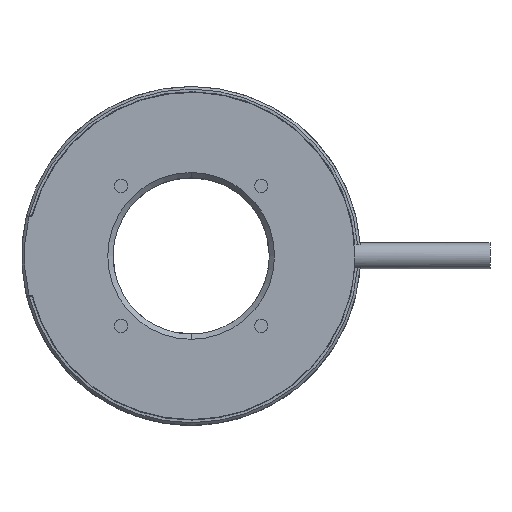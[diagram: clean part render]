
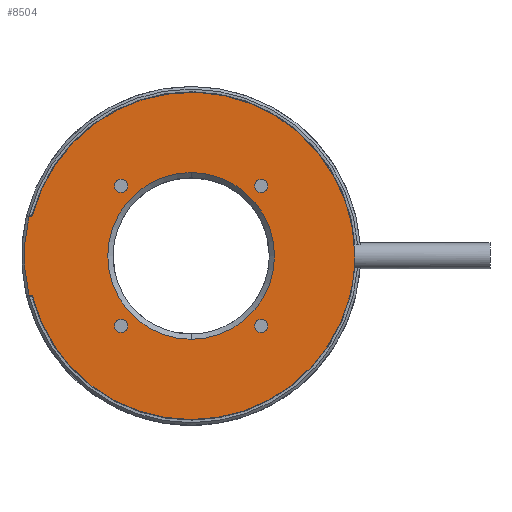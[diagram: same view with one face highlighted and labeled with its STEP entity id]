
A CAD part, top view. The second image highlights one B-rep face of the part: STEP entity #8504.
In plain terms, the highlighted planar face has unit normal (0, 0, 1).
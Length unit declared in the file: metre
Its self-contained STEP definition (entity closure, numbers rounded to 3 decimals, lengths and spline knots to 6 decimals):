
#1629=CARTESIAN_POINT('',(0.,0.,0.002));
#1630=DIRECTION('',(0.,0.,-1.));
#1631=DIRECTION('',(0.,-1.,0.));
#1632=AXIS2_PLACEMENT_3D('',#1629,#1630,#1631);
#1634=CARTESIAN_POINT('',(0.,0.,0.002));
#1635=DIRECTION('',(0.,0.,-1.));
#1636=DIRECTION('',(0.,1.,0.));
#1637=AXIS2_PLACEMENT_3D('',#1634,#1635,#1636);
#1639=CARTESIAN_POINT('',(0.013435,0.013435,0.002));
#1640=DIRECTION('',(0.,0.,-1.));
#1641=DIRECTION('',(0.,1.,0.));
#1642=AXIS2_PLACEMENT_3D('',#1639,#1640,#1641);
#1644=CARTESIAN_POINT('',(0.013435,0.013435,0.002));
#1645=DIRECTION('',(0.,0.,-1.));
#1646=DIRECTION('',(0.,-1.,0.));
#1647=AXIS2_PLACEMENT_3D('',#1644,#1645,#1646);
#1649=CARTESIAN_POINT('',(-0.013435,0.013435,0.002));
#1650=DIRECTION('',(0.,0.,-1.));
#1651=DIRECTION('',(-1.,0.,0.));
#1652=AXIS2_PLACEMENT_3D('',#1649,#1650,#1651);
#1654=CARTESIAN_POINT('',(-0.013435,0.013435,0.002));
#1655=DIRECTION('',(0.,0.,-1.));
#1656=DIRECTION('',(1.,0.,0.));
#1657=AXIS2_PLACEMENT_3D('',#1654,#1655,#1656);
#1659=CARTESIAN_POINT('',(-0.013435,-0.013435,0.002));
#1660=DIRECTION('',(0.,0.,-1.));
#1661=DIRECTION('',(0.,-1.,0.));
#1662=AXIS2_PLACEMENT_3D('',#1659,#1660,#1661);
#1664=CARTESIAN_POINT('',(-0.013435,-0.013435,0.002));
#1665=DIRECTION('',(0.,0.,-1.));
#1666=DIRECTION('',(0.,1.,0.));
#1667=AXIS2_PLACEMENT_3D('',#1664,#1665,#1666);
#1669=CARTESIAN_POINT('',(0.013435,-0.013435,0.002));
#1670=DIRECTION('',(0.,0.,-1.));
#1671=DIRECTION('',(1.,0.,0.));
#1672=AXIS2_PLACEMENT_3D('',#1669,#1670,#1671);
#1674=CARTESIAN_POINT('',(0.013435,-0.013435,0.002));
#1675=DIRECTION('',(0.,0.,-1.));
#1676=DIRECTION('',(-1.,0.,0.));
#1677=AXIS2_PLACEMENT_3D('',#1674,#1675,#1676);
#1679=CARTESIAN_POINT('',(-0.030881,0.008,0.002));
#1680=DIRECTION('',(0.,0.,-1.));
#1681=DIRECTION('',(0.968,-0.251,0.));
#1682=AXIS2_PLACEMENT_3D('',#1679,#1680,#1681);
#1684=CARTESIAN_POINT('',(0.,0.,0.002));
#1685=DIRECTION('',(0.,0.,1.));
#1686=DIRECTION('',(1.,0.,0.));
#1687=AXIS2_PLACEMENT_3D('',#1684,#1685,#1686);
#1689=CARTESIAN_POINT('',(0.,0.,0.002));
#1690=DIRECTION('',(0.,0.,1.));
#1691=DIRECTION('',(0.968,-0.251,0.));
#1692=AXIS2_PLACEMENT_3D('',#1689,#1690,#1691);
#1694=CARTESIAN_POINT('',(0.,0.,0.002));
#1695=DIRECTION('',(0.,0.,1.));
#1696=DIRECTION('',(-0.968,-0.251,0.));
#1697=AXIS2_PLACEMENT_3D('',#1694,#1695,#1696);
#1699=CARTESIAN_POINT('',(-0.030881,-0.008,0.002));
#1700=DIRECTION('',(0.,0.,-1.));
#1701=DIRECTION('',(0.,1.,0.));
#1702=AXIS2_PLACEMENT_3D('',#1699,#1700,#1701);
#1704=CARTESIAN_POINT('',(0.,0.,0.002));
#1705=DIRECTION('',(0.,0.,1.));
#1706=DIRECTION('',(-0.972,0.234,0.));
#1707=AXIS2_PLACEMENT_3D('',#1704,#1705,#1706);
#3774=DIRECTION('',(1.,0.,0.));
#3775=VECTOR('',#3774,0.000228);
#3776=CARTESIAN_POINT('',(-0.031109,0.0075,0.002));
#3777=LINE('',#3776,#3775);
#4097=DIRECTION('',(-1.,0.,0.));
#4098=VECTOR('',#4097,0.000228);
#4099=CARTESIAN_POINT('',(-0.030881,-0.0075,0.002));
#4100=LINE('',#4099,#4098);
#4939=CARTESIAN_POINT('',(-0.030397,-0.007875,0.002));
#4940=CARTESIAN_POINT('',(0.030397,-0.007875,0.002));
#4941=VERTEX_POINT('',#4939);
#4942=VERTEX_POINT('',#4940);
#4943=CARTESIAN_POINT('',(0.0314,0.,0.002));
#4944=VERTEX_POINT('',#4943);
#4945=CARTESIAN_POINT('',(-0.030397,0.007875,0.002));
#4946=VERTEX_POINT('',#4945);
#4947=CARTESIAN_POINT('',(-0.030881,-0.0075,0.002));
#4948=VERTEX_POINT('',#4947);
#4949=CARTESIAN_POINT('',(-0.031109,-0.0075,0.002));
#4950=VERTEX_POINT('',#4949);
#4951=CARTESIAN_POINT('',(-0.031109,0.0075,0.002));
#4952=VERTEX_POINT('',#4951);
#4953=CARTESIAN_POINT('',(-0.030881,0.0075,0.002));
#4954=VERTEX_POINT('',#4953);
#4955=CARTESIAN_POINT('',(0.012185,-0.013435,0.002));
#4956=CARTESIAN_POINT('',(0.014685,-0.013435,0.002));
#4957=VERTEX_POINT('',#4955);
#4958=VERTEX_POINT('',#4956);
#4959=CARTESIAN_POINT('',(-0.013435,-0.012185,0.002));
#4960=CARTESIAN_POINT('',(-0.013435,-0.014685,0.002));
#4961=VERTEX_POINT('',#4959);
#4962=VERTEX_POINT('',#4960);
#4963=CARTESIAN_POINT('',(-0.012185,0.013435,0.002));
#4964=CARTESIAN_POINT('',(-0.014685,0.013435,0.002));
#4965=VERTEX_POINT('',#4963);
#4966=VERTEX_POINT('',#4964);
#4967=CARTESIAN_POINT('',(0.013435,0.012185,0.002));
#4968=CARTESIAN_POINT('',(0.013435,0.014685,0.002));
#4969=VERTEX_POINT('',#4967);
#4970=VERTEX_POINT('',#4968);
#4971=CARTESIAN_POINT('',(0.,0.016,0.002));
#4972=CARTESIAN_POINT('',(0.,-0.016,0.002));
#4973=VERTEX_POINT('',#4971);
#4974=VERTEX_POINT('',#4972);
#8453=CARTESIAN_POINT('',(0.,0.,0.002));
#8454=DIRECTION('',(0.,0.,-1.));
#8455=DIRECTION('',(0.,1.,0.));
#8456=AXIS2_PLACEMENT_3D('',#8453,#8454,#8455);
#8457=PLANE('',#8456);
#8459=ORIENTED_EDGE('',*,*,#8458,.F.);
#8461=ORIENTED_EDGE('',*,*,#8460,.F.);
#8463=ORIENTED_EDGE('',*,*,#8462,.F.);
#8465=ORIENTED_EDGE('',*,*,#8464,.F.);
#8467=ORIENTED_EDGE('',*,*,#8466,.F.);
#8469=ORIENTED_EDGE('',*,*,#8468,.T.);
#8471=ORIENTED_EDGE('',*,*,#8470,.F.);
#8473=ORIENTED_EDGE('',*,*,#8472,.T.);
#8474=EDGE_LOOP('',(#8459,#8461,#8463,#8465,#8467,#8469,#8471,#8473));
#8475=FACE_OUTER_BOUND('',#8474,.F.);
#8477=ORIENTED_EDGE('',*,*,#8476,.F.);
#8479=ORIENTED_EDGE('',*,*,#8478,.F.);
#8480=EDGE_LOOP('',(#8477,#8479));
#8481=FACE_BOUND('',#8480,.F.);
#8483=ORIENTED_EDGE('',*,*,#8482,.F.);
#8485=ORIENTED_EDGE('',*,*,#8484,.F.);
#8486=EDGE_LOOP('',(#8483,#8485));
#8487=FACE_BOUND('',#8486,.F.);
#8489=ORIENTED_EDGE('',*,*,#8488,.F.);
#8491=ORIENTED_EDGE('',*,*,#8490,.F.);
#8492=EDGE_LOOP('',(#8489,#8491));
#8493=FACE_BOUND('',#8492,.F.);
#8495=ORIENTED_EDGE('',*,*,#8494,.F.);
#8497=ORIENTED_EDGE('',*,*,#8496,.F.);
#8498=EDGE_LOOP('',(#8495,#8497));
#8499=FACE_BOUND('',#8498,.F.);
#8500=ORIENTED_EDGE('',*,*,#8432,.F.);
#8501=ORIENTED_EDGE('',*,*,#8446,.F.);
#8502=EDGE_LOOP('',(#8500,#8501));
#8503=FACE_BOUND('',#8502,.F.);
#8504=ADVANCED_FACE('',(#8475,#8481,#8487,#8493,#8499,#8503),#8457,.F.);
#1633=CIRCLE('',#1632,0.016);
#1638=CIRCLE('',#1637,0.016);
#1643=CIRCLE('',#1642,0.00125);
#1648=CIRCLE('',#1647,0.00125);
#1653=CIRCLE('',#1652,0.00125);
#1658=CIRCLE('',#1657,0.00125);
#1663=CIRCLE('',#1662,0.00125);
#1668=CIRCLE('',#1667,0.00125);
#1673=CIRCLE('',#1672,0.00125);
#1678=CIRCLE('',#1677,0.00125);
#1683=CIRCLE('',#1682,0.0005);
#1688=CIRCLE('',#1687,0.0314);
#1693=CIRCLE('',#1692,0.0314);
#1698=CIRCLE('',#1697,0.0314);
#1703=CIRCLE('',#1702,0.0005);
#1708=CIRCLE('',#1707,0.032);
#8432=EDGE_CURVE('',#4974,#4973,#1633,.T.);
#8446=EDGE_CURVE('',#4973,#4974,#1638,.T.);
#8458=EDGE_CURVE('',#4946,#4954,#1683,.T.);
#8460=EDGE_CURVE('',#4944,#4946,#1688,.T.);
#8462=EDGE_CURVE('',#4942,#4944,#1693,.T.);
#8464=EDGE_CURVE('',#4941,#4942,#1698,.T.);
#8466=EDGE_CURVE('',#4948,#4941,#1703,.T.);
#8468=EDGE_CURVE('',#4948,#4950,#4100,.T.);
#8470=EDGE_CURVE('',#4952,#4950,#1708,.T.);
#8472=EDGE_CURVE('',#4952,#4954,#3777,.T.);
#8476=EDGE_CURVE('',#4970,#4969,#1643,.T.);
#8478=EDGE_CURVE('',#4969,#4970,#1648,.T.);
#8482=EDGE_CURVE('',#4966,#4965,#1653,.T.);
#8484=EDGE_CURVE('',#4965,#4966,#1658,.T.);
#8488=EDGE_CURVE('',#4962,#4961,#1663,.T.);
#8490=EDGE_CURVE('',#4961,#4962,#1668,.T.);
#8494=EDGE_CURVE('',#4958,#4957,#1673,.T.);
#8496=EDGE_CURVE('',#4957,#4958,#1678,.T.);
